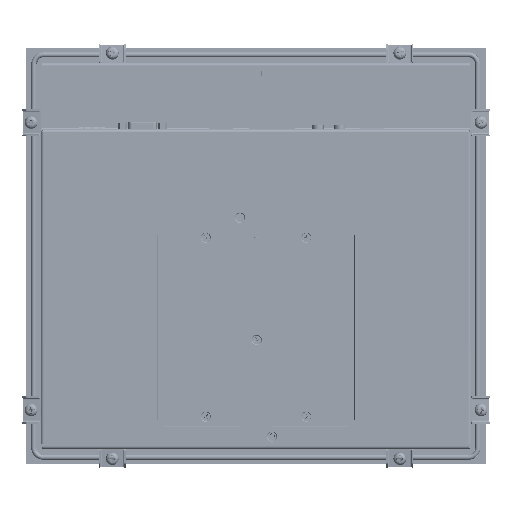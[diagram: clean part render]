
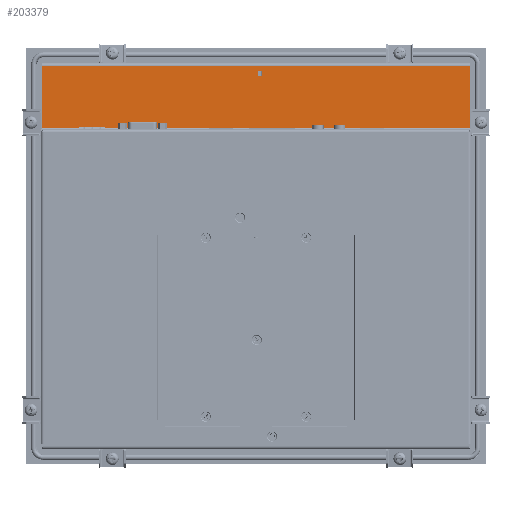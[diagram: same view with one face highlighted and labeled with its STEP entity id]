
A CAD part, front view. The second image highlights one B-rep face of the part: STEP entity #203379.
In plain terms, the highlighted planar face has unit normal (0, -1, 0).
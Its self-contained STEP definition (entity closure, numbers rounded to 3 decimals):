
#19891 = CARTESIAN_POINT ( 'NONE',  ( 133.879, -20.296, 127.298 ) ) ;
#27091 = VECTOR ( 'NONE', #32840, 1000. ) ;
#27314 = DIRECTION ( 'NONE',  ( 1., 0., 0. ) ) ;
#29790 = EDGE_CURVE ( 'NONE', #175987, #130568, #36472, .T. ) ;
#32840 = DIRECTION ( 'NONE',  ( 0., 0., -1. ) ) ;
#35685 = DIRECTION ( 'NONE',  ( 0., 1., 0. ) ) ;
#36472 = LINE ( 'NONE', #203524, #201289 ) ;
#40300 = VECTOR ( 'NONE', #27314, 1000. ) ;
#49272 = LINE ( 'NONE', #182596, #27091 ) ;
#59446 = EDGE_CURVE ( 'NONE', #160694, #72679, #156433, .T. ) ;
#64465 = VECTOR ( 'NONE', #102943, 1000. ) ;
#66410 = PLANE ( 'NONE',  #206840 ) ;
#68293 = DIRECTION ( 'NONE',  ( -1., 0., 0. ) ) ;
#70687 = CARTESIAN_POINT ( 'NONE',  ( 134.75, -20.296, 127.298 ) ) ;
#72679 = VERTEX_POINT ( 'NONE', #78884 ) ;
#78434 = CARTESIAN_POINT ( 'NONE',  ( -133.879, -20.296, 86.798 ) ) ;
#78884 = CARTESIAN_POINT ( 'NONE',  ( 133.879, -20.296, 86.798 ) ) ;
#82645 = CARTESIAN_POINT ( 'NONE',  ( -133.879, -20.296, 125.498 ) ) ;
#102943 = DIRECTION ( 'NONE',  ( 0., 0., 1. ) ) ;
#107917 = CARTESIAN_POINT ( 'NONE',  ( 133.879, -20.296, 125.498 ) ) ;
#117183 = LINE ( 'NONE', #19891, #64465 ) ;
#129560 = ORIENTED_EDGE ( 'NONE', *, *, #195981, .T. ) ;
#130568 = VERTEX_POINT ( 'NONE', #82645 ) ;
#147472 = ORIENTED_EDGE ( 'NONE', *, *, #29790, .T. ) ;
#151313 = ORIENTED_EDGE ( 'NONE', *, *, #59446, .T. ) ;
#156433 = LINE ( 'NONE', #175977, #40300 ) ;
#160694 = VERTEX_POINT ( 'NONE', #78434 ) ;
#163310 = EDGE_LOOP ( 'NONE', ( #129560, #151313, #200649, #147472 ) ) ;
#170904 = EDGE_CURVE ( 'NONE', #72679, #175987, #117183, .T. ) ;
#175977 = CARTESIAN_POINT ( 'NONE',  ( 133.879, -20.296, 86.798 ) ) ;
#175987 = VERTEX_POINT ( 'NONE', #107917 ) ;
#182596 = CARTESIAN_POINT ( 'NONE',  ( -133.879, -20.296, 127.298 ) ) ;
#195981 = EDGE_CURVE ( 'NONE', #130568, #160694, #49272, .T. ) ;
#200649 = ORIENTED_EDGE ( 'NONE', *, *, #170904, .T. ) ;
#201289 = VECTOR ( 'NONE', #68293, 1000. ) ;
#202738 = FACE_OUTER_BOUND ( 'NONE', #163310, .T. ) ;
#203379 = ADVANCED_FACE ( 'NONE', ( #202738 ), #66410, .F. ) ;
#203524 = CARTESIAN_POINT ( 'NONE',  ( 134.75, -20.296, 125.498 ) ) ;
#203792 = DIRECTION ( 'NONE',  ( -1., 0., 0. ) ) ;
#206840 = AXIS2_PLACEMENT_3D ( 'NONE', #70687, #35685, #203792 ) ;
